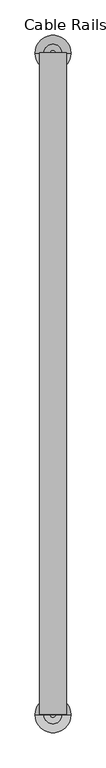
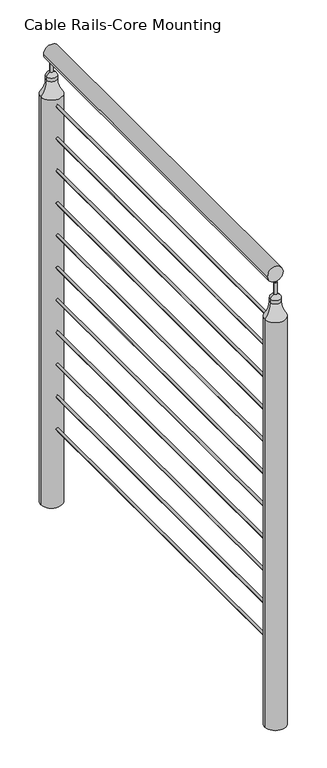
"""IFC4 building model written with IfcOpenShell, lengths in millimetres: railing geometry, Cable Rails-Core Mounting."""

from ifc_helpers import new_model, si_unit, point, frame, frame_2d, origin, place, context, project, spatial, circle_curve, ellipse_curve, trimmed, segment, composite_curve, outline, extrude, source, transform, mapped, element, save
from ifc_brep_helpers import plane_surface, cylinder_surface, revolved_surface, advanced_brep


def cable_rails_core_mounting_58234ab9(model_context):
    return source(origin(), model_context, "Body", "SolidModel", [
        extrude(outline(composite_curve([segment(trimmed(circle_curve(frame_2d((2690.9058824, -9489.1887578)), 19.05), [point((2690.9058824, -9508.2387578))], [point((2690.9058824, -9470.1387578))], False, "CARTESIAN"), True, "CONTINUOUS"), segment(trimmed(circle_curve(frame_2d((2690.9058824, -9489.1887578)), 19.05), [point((2690.9058824, -9470.1387578))], [point((2690.9058824, -9508.2387578))], False, "CARTESIAN"), True, "CONTINUOUS")], self_intersect=False)), frame((0.0, -4265.0991962, 0.0), z_axis=(0.0, 1.0, 0.0), x_axis=(0.0, 0.0, 1.0)), (0.0, 0.0, 1.0), 937.7851523),
        extrude(outline(composite_curve([segment(trimmed(circle_curve(frame_2d((2567.0808824, -9489.1887578)), 3.175), [point((2567.0808824, -9492.3637578))], [point((2567.0808824, -9486.0137578))], False, "CARTESIAN"), True, "CONTINUOUS"), segment(trimmed(circle_curve(frame_2d((2567.0808824, -9489.1887578)), 3.175), [point((2567.0808824, -9486.0137578))], [point((2567.0808824, -9492.3637578))], False, "CARTESIAN"), True, "CONTINUOUS")], self_intersect=False)), frame((0.0, -4265.0991962, 0.0), z_axis=(0.0, 1.0, 0.0), x_axis=(0.0, 0.0, 1.0)), (0.0, 0.0, 1.0), 937.7851523),
        extrude(outline(composite_curve([segment(trimmed(circle_curve(frame_2d((2484.5308824, -9489.1887578)), 3.175), [point((2484.5308824, -9492.3637578))], [point((2484.5308824, -9486.0137578))], False, "CARTESIAN"), True, "CONTINUOUS"), segment(trimmed(circle_curve(frame_2d((2484.5308824, -9489.1887578)), 3.175), [point((2484.5308824, -9486.0137578))], [point((2484.5308824, -9492.3637578))], False, "CARTESIAN"), True, "CONTINUOUS")], self_intersect=False)), frame((0.0, -4265.0991962, 0.0), z_axis=(0.0, 1.0, 0.0), x_axis=(0.0, 0.0, 1.0)), (0.0, 0.0, 1.0), 937.7851523),
        extrude(outline(composite_curve([segment(trimmed(circle_curve(frame_2d((2401.9808824, -9489.1887578)), 3.175), [point((2401.9808824, -9492.3637578))], [point((2401.9808824, -9486.0137578))], False, "CARTESIAN"), True, "CONTINUOUS"), segment(trimmed(circle_curve(frame_2d((2401.9808824, -9489.1887578)), 3.175), [point((2401.9808824, -9486.0137578))], [point((2401.9808824, -9492.3637578))], False, "CARTESIAN"), True, "CONTINUOUS")], self_intersect=False)), frame((0.0, -4265.0991962, 0.0), z_axis=(0.0, 1.0, 0.0), x_axis=(0.0, 0.0, 1.0)), (0.0, 0.0, 1.0), 937.7851523),
        extrude(outline(composite_curve([segment(trimmed(circle_curve(frame_2d((2319.4308824, -9489.1887578)), 3.175), [point((2319.4308824, -9492.3637578))], [point((2319.4308824, -9486.0137578))], False, "CARTESIAN"), True, "CONTINUOUS"), segment(trimmed(circle_curve(frame_2d((2319.4308824, -9489.1887578)), 3.175), [point((2319.4308824, -9486.0137578))], [point((2319.4308824, -9492.3637578))], False, "CARTESIAN"), True, "CONTINUOUS")], self_intersect=False)), frame((0.0, -4265.0991962, 0.0), z_axis=(0.0, 1.0, 0.0), x_axis=(0.0, 0.0, 1.0)), (0.0, 0.0, 1.0), 937.7851523),
        extrude(outline(composite_curve([segment(trimmed(circle_curve(frame_2d((2236.8808824, -9489.1887578)), 3.175), [point((2236.8808824, -9492.3637578))], [point((2236.8808824, -9486.0137578))], False, "CARTESIAN"), True, "CONTINUOUS"), segment(trimmed(circle_curve(frame_2d((2236.8808824, -9489.1887578)), 3.175), [point((2236.8808824, -9486.0137578))], [point((2236.8808824, -9492.3637578))], False, "CARTESIAN"), True, "CONTINUOUS")], self_intersect=False)), frame((0.0, -4265.0991962, 0.0), z_axis=(0.0, 1.0, 0.0), x_axis=(0.0, 0.0, 1.0)), (0.0, 0.0, 1.0), 937.7851523),
        extrude(outline(composite_curve([segment(trimmed(circle_curve(frame_2d((2154.3308824, -9489.1887578)), 3.175), [point((2154.3308824, -9492.3637578))], [point((2154.3308824, -9486.0137578))], False, "CARTESIAN"), True, "CONTINUOUS"), segment(trimmed(circle_curve(frame_2d((2154.3308824, -9489.1887578)), 3.175), [point((2154.3308824, -9486.0137578))], [point((2154.3308824, -9492.3637578))], False, "CARTESIAN"), True, "CONTINUOUS")], self_intersect=False)), frame((0.0, -4265.0991962, 0.0), z_axis=(0.0, 1.0, 0.0), x_axis=(0.0, 0.0, 1.0)), (0.0, 0.0, 1.0), 937.7851523),
        extrude(outline(composite_curve([segment(trimmed(circle_curve(frame_2d((2071.7808824, -9489.1887578)), 3.175), [point((2071.7808824, -9492.3637578))], [point((2071.7808824, -9486.0137578))], False, "CARTESIAN"), True, "CONTINUOUS"), segment(trimmed(circle_curve(frame_2d((2071.7808824, -9489.1887578)), 3.175), [point((2071.7808824, -9486.0137578))], [point((2071.7808824, -9492.3637578))], False, "CARTESIAN"), True, "CONTINUOUS")], self_intersect=False)), frame((0.0, -4265.0991962, 0.0), z_axis=(0.0, 1.0, 0.0), x_axis=(0.0, 0.0, 1.0)), (0.0, 0.0, 1.0), 937.7851523),
        extrude(outline(composite_curve([segment(trimmed(circle_curve(frame_2d((1989.2308824, -9489.1887578)), 3.175), [point((1989.2308824, -9492.3637578))], [point((1989.2308824, -9486.0137578))], False, "CARTESIAN"), True, "CONTINUOUS"), segment(trimmed(circle_curve(frame_2d((1989.2308824, -9489.1887578)), 3.175), [point((1989.2308824, -9486.0137578))], [point((1989.2308824, -9492.3637578))], False, "CARTESIAN"), True, "CONTINUOUS")], self_intersect=False)), frame((0.0, -4265.0991962, 0.0), z_axis=(0.0, 1.0, 0.0), x_axis=(0.0, 0.0, 1.0)), (0.0, 0.0, 1.0), 937.7851523),
        extrude(outline(composite_curve([segment(trimmed(circle_curve(frame_2d((1906.6808824, -9489.1887578)), 3.175), [point((1906.6808824, -9492.3637578))], [point((1906.6808824, -9486.0137578))], False, "CARTESIAN"), True, "CONTINUOUS"), segment(trimmed(circle_curve(frame_2d((1906.6808824, -9489.1887578)), 3.175), [point((1906.6808824, -9486.0137578))], [point((1906.6808824, -9492.3637578))], False, "CARTESIAN"), True, "CONTINUOUS")], self_intersect=False)), frame((0.0, -4265.0991962, 0.0), z_axis=(0.0, 1.0, 0.0), x_axis=(0.0, 0.0, 1.0)), (0.0, 0.0, 1.0), 937.7851523),
        extrude(outline(composite_curve([segment(trimmed(circle_curve(frame_2d((1824.1308824, -9489.1887578)), 3.175), [point((1824.1308824, -9492.3637578))], [point((1824.1308824, -9486.0137578))], False, "CARTESIAN"), True, "CONTINUOUS"), segment(trimmed(circle_curve(frame_2d((1824.1308824, -9489.1887578)), 3.175), [point((1824.1308824, -9486.0137578))], [point((1824.1308824, -9492.3637578))], False, "CARTESIAN"), True, "CONTINUOUS")], self_intersect=False)), frame((0.0, -4265.0991962, 0.0), z_axis=(0.0, 1.0, 0.0), x_axis=(0.0, 0.0, 1.0)), (0.0, 0.0, 1.0), 937.7851523),
        extrude(outline(composite_curve([segment(trimmed(circle_curve(frame_2d((1741.5808824, -9489.1887578)), 3.175), [point((1741.5808824, -9492.3637578))], [point((1741.5808824, -9486.0137578))], False, "CARTESIAN"), True, "CONTINUOUS"), segment(trimmed(circle_curve(frame_2d((1741.5808824, -9489.1887578)), 3.175), [point((1741.5808824, -9486.0137578))], [point((1741.5808824, -9492.3637578))], False, "CARTESIAN"), True, "CONTINUOUS")], self_intersect=False)), frame((0.0, -4265.0991962, 0.0), z_axis=(0.0, 1.0, 0.0), x_axis=(0.0, 0.0, 1.0)), (0.0, 0.0, 1.0), 937.7851523),
        advanced_brep(
        [(-9463.78936, -4265.4960712, 2584.2906677), (-9463.78936, -4265.4960712, 1541.5558824), (-9514.5881556, -4265.4960712, 1541.5558824), (-9514.5881556, -4265.4960712, 2584.2906677), (-9476.4507892, -4265.4960712, 2622.5045026), (-9501.9267263, -4265.4960712, 2622.5045026), (-9476.4507892, -4265.4960712, 2631.4875601), (-9501.9267263, -4265.4960712, 2631.4875601), (-9485.5892556, -4265.4960712, 2640.4461572), (-9492.78826, -4265.4960712, 2640.4461572), (-9485.5892556, -4265.4960712, 2671.8558824), (-9492.78826, -4265.4960712, 2671.8558824), (-9489.1887578, -4265.4960712, 2671.8558824), (-9489.1887578, -4265.4960712, 1541.5558824)],
        [
            (0, 1),
            (1, 2, circle_curve(frame((-9489.1887578, -4265.4960712, 1541.5558824), z_axis=(0.0, 0.0, 1.0), x_axis=(-1.0, 0.0, 0.0)), 25.3993978)),
            (2, 3),
            (3, 0, circle_curve(frame((-9489.1887578, -4265.4960712, 2584.2906677), z_axis=(0.0, 0.0, -1.0), x_axis=(-1.0, 0.0, 0.0)), 25.3993978)),
            (2, 1, circle_curve(frame((-9489.1887578, -4265.4960712, 1541.5558824), z_axis=(0.0, 0.0, 1.0), x_axis=(-1.0, 0.0, 0.0)), 25.3993978)),
            (0, 3, circle_curve(frame((-9489.1887578, -4265.4960712, 2584.2906677), z_axis=(0.0, 0.0, -1.0), x_axis=(-1.0, 0.0, 0.0)), 25.3993978)),
            (4, 0, circle_curve(frame((-9412.4529209, -4265.4960712, 2622.5045026), z_axis=(0.0, -1.0, 0.0), x_axis=(1.0, 0.0, 0.0)), 63.9978683)),
            (3, 5, circle_curve(frame((-9565.9245946, -4265.4960712, 2622.5045026), z_axis=(0.0, -1.0, 0.0), x_axis=(-1.0, 0.0, 0.0)), 63.9978683)),
            (5, 4, circle_curve(frame((-9489.1887578, -4265.4960712, 2622.5045026), z_axis=(0.0, 0.0, -1.0), x_axis=(-1.0, 0.0, 0.0)), 12.7379685)),
            (4, 5, circle_curve(frame((-9489.1887578, -4265.4960712, 2622.5045026), z_axis=(0.0, 0.0, -1.0), x_axis=(-1.0, 0.0, 0.0)), 12.7379685)),
            (6, 4),
            (5, 7),
            (7, 6, circle_curve(frame((-9489.1887578, -4265.4960712, 2631.4875601), z_axis=(0.0, 0.0, -1.0), x_axis=(-1.0, 0.0, 0.0)), 12.7379685)),
            (6, 7, circle_curve(frame((-9489.1887578, -4265.4960712, 2631.4875601), z_axis=(0.0, 0.0, -1.0), x_axis=(-1.0, 0.0, 0.0)), 12.7379685)),
            (8, 6, circle_curve(frame((-9489.2288836, -4265.4960712, 2627.5931813), z_axis=(0.0, 1.0, 0.0), x_axis=(1.0, 0.0, 0.0)), 13.3583638)),
            (7, 9, circle_curve(frame((-9489.148632, -4265.4960712, 2627.5931813), z_axis=(0.0, 1.0, 0.0), x_axis=(-1.0, 0.0, 0.0)), 13.3583638)),
            (9, 8, circle_curve(frame((-9489.1887578, -4265.4960712, 2640.4461572), z_axis=(0.0, 0.0, -1.0), x_axis=(-1.0, 0.0, 0.0)), 3.5995022)),
            (8, 9, circle_curve(frame((-9489.1887578, -4265.4960712, 2640.4461572), z_axis=(0.0, 0.0, -1.0), x_axis=(-1.0, 0.0, 0.0)), 3.5995022)),
            (10, 8),
            (9, 11),
            (11, 10, circle_curve(frame((-9489.1887578, -4265.4960712, 2671.8558824), z_axis=(0.0, 0.0, -1.0), x_axis=(-1.0, 0.0, 0.0)), 3.5995022)),
            (10, 11, circle_curve(frame((-9489.1887578, -4265.4960712, 2671.8558824), z_axis=(0.0, 0.0, -1.0), x_axis=(-1.0, 0.0, 0.0)), 3.5995022)),
            (12, 10),
            (11, 12),
            (1, 13),
            (13, 2),
        ],
        [
            cylinder_surface(frame((-9489.1887578, -4265.4960712, 2748.0558824), z_axis=(0.0, 0.0, 1.0), x_axis=(-1.0, 0.0, 0.0)), 25.3993978),
            revolved_surface(trimmed(ellipse_curve(frame((-9565.9245946, -4265.4960712, 2622.5045026), z_axis=(0.0, -1.0, 0.0), x_axis=(-1.0, 0.0, 0.0)), 63.9978683, 63.9978683), [point((-9514.5881556, -4265.4960712, 2584.2906677))], [point((-9501.9267263, -4265.4960712, 2622.5045026))], True, "CARTESIAN"), (-9489.1887578, -4265.4960712, 2748.0558824), (0.0, 0.0, 1.0)),
            cylinder_surface(frame((-9489.1887578, -4265.4960712, 2748.0558824), z_axis=(0.0, 0.0, 1.0), x_axis=(-1.0, 0.0, 0.0)), 12.7379685),
            revolved_surface(trimmed(ellipse_curve(frame((-9489.148632, -4265.4960712, 2627.5931813), z_axis=(0.0, 1.0, 0.0), x_axis=(-1.0, 0.0, 0.0)), 13.3583638, 13.3583638), [point((-9501.9267263, -4265.4960712, 2631.4875601))], [point((-9492.78826, -4265.4960712, 2640.4461572))], True, "CARTESIAN"), (-9489.1887578, -4265.4960712, 2748.0558824), (0.0, 0.0, 1.0)),
            cylinder_surface(frame((-9489.1887578, -4265.4960712, 2748.0558824), z_axis=(0.0, 0.0, 1.0), x_axis=(-1.0, 0.0, 0.0)), 3.5995022),
            plane_surface(frame((-9489.1887578, -4265.4960712, 2671.8558824), z_axis=(0.0, 0.0, 1.0), x_axis=(-1.0, 0.0, 0.0))),
            plane_surface(frame((-9489.1887578, -4265.4960712, 1541.5558824), z_axis=(0.0, 0.0, -1.0), x_axis=(-1.0, 0.0, 0.0))),
        ],
        [
            (0, [[1, 2, 3, 4]]),
            (0, [[-3, 5, -1, 6]]),
            (1, [[7, -4, 8, 9]]),
            (1, [[-8, -6, -7, 10]]),
            (2, [[11, -9, 12, 13]]),
            (2, [[-12, -10, -11, 14]]),
            (3, [[15, -13, 16, 17]]),
            (3, [[-16, -14, -15, 18]]),
            (4, [[19, -17, 20, 21]]),
            (4, [[-20, -18, -19, 22]]),
            (5, [[23, -21, 24]]),
            (5, [[-24, -22, -23]]),
            (6, [[25, 26, -2]]),
            (6, [[-26, -25, -5]]),
        ],
    ),
        advanced_brep(
        [(-9463.78936, -3327.7109188, 2584.2906677), (-9463.78936, -3327.7109188, 1541.5558824), (-9514.5881556, -3327.7109188, 1541.5558824), (-9514.5881556, -3327.7109188, 2584.2906677), (-9476.4507892, -3327.7109188, 2622.5045026), (-9501.9267263, -3327.7109188, 2622.5045026), (-9476.4507892, -3327.7109188, 2631.4875601), (-9501.9267263, -3327.7109188, 2631.4875601), (-9485.5892556, -3327.7109188, 2640.4461572), (-9492.78826, -3327.7109188, 2640.4461572), (-9485.5892556, -3327.7109188, 2671.8558824), (-9492.78826, -3327.7109188, 2671.8558824), (-9489.1887578, -3327.7109188, 2671.8558824), (-9489.1887578, -3327.7109188, 1541.5558824)],
        [
            (0, 1),
            (1, 2, circle_curve(frame((-9489.1887578, -3327.7109188, 1541.5558824), z_axis=(0.0, 0.0, 1.0), x_axis=(-1.0, 0.0, 0.0)), 25.3993978)),
            (2, 3),
            (3, 0, circle_curve(frame((-9489.1887578, -3327.7109188, 2584.2906677), z_axis=(0.0, 0.0, -1.0), x_axis=(-1.0, 0.0, 0.0)), 25.3993978)),
            (2, 1, circle_curve(frame((-9489.1887578, -3327.7109188, 1541.5558824), z_axis=(0.0, 0.0, 1.0), x_axis=(-1.0, 0.0, 0.0)), 25.3993978)),
            (0, 3, circle_curve(frame((-9489.1887578, -3327.7109188, 2584.2906677), z_axis=(0.0, 0.0, -1.0), x_axis=(-1.0, 0.0, 0.0)), 25.3993978)),
            (4, 0, circle_curve(frame((-9412.4529209, -3327.7109188, 2622.5045026), z_axis=(0.0, -1.0, 0.0), x_axis=(1.0, 0.0, 0.0)), 63.9978683)),
            (3, 5, circle_curve(frame((-9565.9245946, -3327.7109188, 2622.5045026), z_axis=(0.0, -1.0, 0.0), x_axis=(-1.0, 0.0, 0.0)), 63.9978683)),
            (5, 4, circle_curve(frame((-9489.1887578, -3327.7109188, 2622.5045026), z_axis=(0.0, 0.0, -1.0), x_axis=(-1.0, 0.0, 0.0)), 12.7379685)),
            (4, 5, circle_curve(frame((-9489.1887578, -3327.7109188, 2622.5045026), z_axis=(0.0, 0.0, -1.0), x_axis=(-1.0, 0.0, 0.0)), 12.7379685)),
            (6, 4),
            (5, 7),
            (7, 6, circle_curve(frame((-9489.1887578, -3327.7109188, 2631.4875601), z_axis=(0.0, 0.0, -1.0), x_axis=(-1.0, 0.0, 0.0)), 12.7379685)),
            (6, 7, circle_curve(frame((-9489.1887578, -3327.7109188, 2631.4875601), z_axis=(0.0, 0.0, -1.0), x_axis=(-1.0, 0.0, 0.0)), 12.7379685)),
            (8, 6, circle_curve(frame((-9489.2288836, -3327.7109188, 2627.5931813), z_axis=(0.0, 1.0, 0.0), x_axis=(1.0, 0.0, 0.0)), 13.3583638)),
            (7, 9, circle_curve(frame((-9489.148632, -3327.7109188, 2627.5931813), z_axis=(0.0, 1.0, 0.0), x_axis=(-1.0, 0.0, 0.0)), 13.3583638)),
            (9, 8, circle_curve(frame((-9489.1887578, -3327.7109188, 2640.4461572), z_axis=(0.0, 0.0, -1.0), x_axis=(-1.0, 0.0, 0.0)), 3.5995022)),
            (8, 9, circle_curve(frame((-9489.1887578, -3327.7109188, 2640.4461572), z_axis=(0.0, 0.0, -1.0), x_axis=(-1.0, 0.0, 0.0)), 3.5995022)),
            (10, 8),
            (9, 11),
            (11, 10, circle_curve(frame((-9489.1887578, -3327.7109188, 2671.8558824), z_axis=(0.0, 0.0, -1.0), x_axis=(-1.0, 0.0, 0.0)), 3.5995022)),
            (10, 11, circle_curve(frame((-9489.1887578, -3327.7109188, 2671.8558824), z_axis=(0.0, 0.0, -1.0), x_axis=(-1.0, 0.0, 0.0)), 3.5995022)),
            (12, 10),
            (11, 12),
            (1, 13),
            (13, 2),
        ],
        [
            cylinder_surface(frame((-9489.1887578, -3327.7109188, 2748.0558824), z_axis=(0.0, 0.0, 1.0), x_axis=(-1.0, 0.0, 0.0)), 25.3993978),
            revolved_surface(trimmed(ellipse_curve(frame((-9565.9245946, -3327.7109188, 2622.5045026), z_axis=(0.0, -1.0, 0.0), x_axis=(-1.0, 0.0, 0.0)), 63.9978683, 63.9978683), [point((-9514.5881556, -3327.7109188, 2584.2906677))], [point((-9501.9267263, -3327.7109188, 2622.5045026))], True, "CARTESIAN"), (-9489.1887578, -3327.7109188, 2748.0558824), (0.0, 0.0, 1.0)),
            cylinder_surface(frame((-9489.1887578, -3327.7109188, 2748.0558824), z_axis=(0.0, 0.0, 1.0), x_axis=(-1.0, 0.0, 0.0)), 12.7379685),
            revolved_surface(trimmed(ellipse_curve(frame((-9489.148632, -3327.7109188, 2627.5931813), z_axis=(0.0, 1.0, 0.0), x_axis=(-1.0, 0.0, 0.0)), 13.3583638, 13.3583638), [point((-9501.9267263, -3327.7109188, 2631.4875601))], [point((-9492.78826, -3327.7109188, 2640.4461572))], True, "CARTESIAN"), (-9489.1887578, -3327.7109188, 2748.0558824), (0.0, 0.0, 1.0)),
            cylinder_surface(frame((-9489.1887578, -3327.7109188, 2748.0558824), z_axis=(0.0, 0.0, 1.0), x_axis=(-1.0, 0.0, 0.0)), 3.5995022),
            plane_surface(frame((-9489.1887578, -3327.7109188, 2671.8558824), z_axis=(0.0, 0.0, 1.0), x_axis=(-1.0, 0.0, 0.0))),
            plane_surface(frame((-9489.1887578, -3327.7109188, 1541.5558824), z_axis=(0.0, 0.0, -1.0), x_axis=(-1.0, 0.0, 0.0))),
        ],
        [
            (0, [[1, 2, 3, 4]]),
            (0, [[-3, 5, -1, 6]]),
            (1, [[7, -4, 8, 9]]),
            (1, [[-8, -6, -7, 10]]),
            (2, [[11, -9, 12, 13]]),
            (2, [[-12, -10, -11, 14]]),
            (3, [[15, -13, 16, 17]]),
            (3, [[-16, -14, -15, 18]]),
            (4, [[19, -17, 20, 21]]),
            (4, [[-20, -18, -19, 22]]),
            (5, [[23, -21, 24]]),
            (5, [[-24, -22, -23]]),
            (6, [[25, 26, -2]]),
            (6, [[-26, -25, -5]]),
        ],
    ),
    ])


if __name__ == "__main__":
    model = new_model("IFC4")
    model_context = context("Model", 3, world=origin())
    ifc_project = project(units=[si_unit("LENGTHUNIT", "METRE", prefix="MILLI")], contexts=[model_context])
    site = spatial("IfcSite", under=ifc_project)
    building = spatial("IfcBuilding", under=site)
    placement = place(None, origin())
    cable_rails_core_mounting_shape = cable_rails_core_mounting_58234ab9(model_context)
    element("IfcRailing", 1, ObjectType="Cable Rails-Core Mounting", at=placement, inside=building, context=model_context, shape_type="MappedRepresentation", body=[
        mapped(cable_rails_core_mounting_shape, transform((0.0, 0.0, 0.0), x_axis=(1.0, 0.0, 0.0), y_axis=(0.0, 1.0, 0.0), z_axis=(0.0, 0.0, 1.0))),
    ])
    save(model, "model.ifc")
